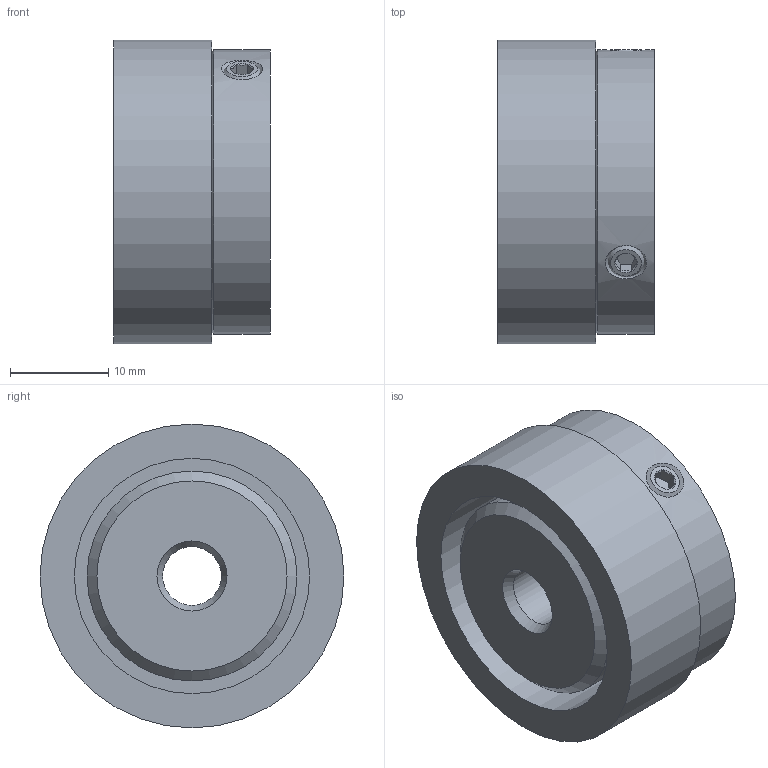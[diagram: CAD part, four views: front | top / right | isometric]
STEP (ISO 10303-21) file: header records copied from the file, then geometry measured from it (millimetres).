
FILE_DESCRIPTION (( 'STEP AP203' ), '1' );
FILE_NAME ('8.RI50.031.0600.112.STEP', '2013-07-16T06:51:55', ( 'Hodot' ), ( '' ), 'SwSTEP 2.0', 'SolidWorks 2012', '' );
FILE_SCHEMA (( 'CONFIG_CONTROL_DESIGN' ));
Length unit declared in the file: millimetre
Products named in the file (1): 8.RI50.031.0600.112
Bounding box: 16 x 31 x 31 mm (x, y, z)
Volume: 9743.9 mm3; surface area: 5371.5 mm2
Topology: 4 solids, 4 shells, 54 faces, 107 edges, 62 vertices
Faces by surface type: cone 23, plane 22, cylinder 9
Full cylindrical faces by diameter (mm): 3.3 x2, 4 x2, 6 x1, 21.4 x1, 24 x1, 29 x1, 31 x1
Entity records: 1511 total; most frequent: CARTESIAN_POINT 471, DIRECTION 206, ORIENTED_EDGE 152, AXIS2_PLACEMENT_3D 91, EDGE_LOOP 84, EDGE_CURVE 76, FACE_OUTER_BOUND 63, ADVANCED_FACE 54
